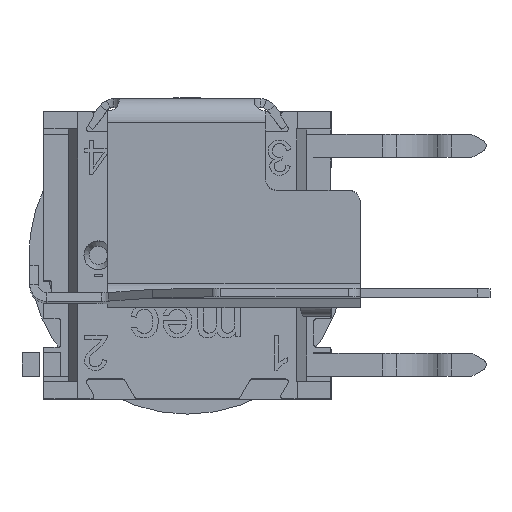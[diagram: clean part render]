
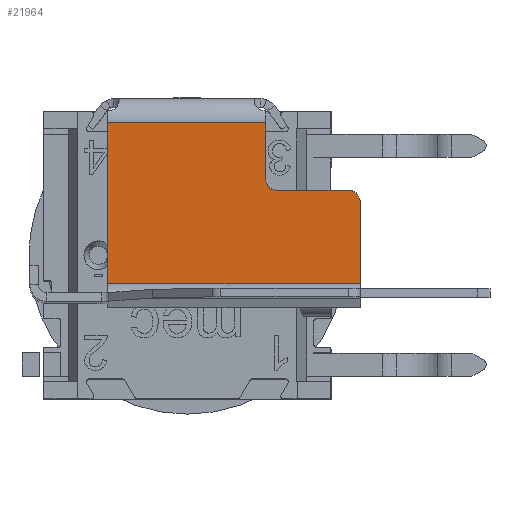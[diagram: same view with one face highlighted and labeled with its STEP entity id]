
A CAD part, top view. The second image highlights one B-rep face of the part: STEP entity #21964.
In plain terms, the highlighted planar face has unit normal (0, -0.052, 0.999).
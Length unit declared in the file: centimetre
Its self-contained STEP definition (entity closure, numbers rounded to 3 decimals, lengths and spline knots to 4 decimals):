
#1302=CIRCLE($,#23297,0.0425);
#1303=CIRCLE($,#23298,0.0375);
#1992=FACE_OUTER_BOUND($,#3148,.T.);
#3148=EDGE_LOOP($,(#14910,#14911,#14912,#14913,#14914,#14915,#14916,#14917));
#4431=LINE($,#35125,#6449);
#4434=LINE($,#35133,#6452);
#4443=LINE($,#35155,#6461);
#4445=LINE($,#35159,#6463);
#4446=LINE($,#35164,#6464);
#4447=LINE($,#35167,#6465);
#6449=VECTOR($,#25842,0.55);
#6452=VECTOR($,#25849,0.5611);
#6461=VECTOR($,#25876,0.88);
#6463=VECTOR($,#25880,0.2829);
#6464=VECTOR($,#25885,0.25);
#6465=VECTOR($,#25888,0.1982);
#8645=VERTEX_POINT($,#34920);
#8649=VERTEX_POINT($,#35120);
#8652=VERTEX_POINT($,#35131);
#8655=VERTEX_POINT($,#35146);
#8657=VERTEX_POINT($,#35157);
#8658=VERTEX_POINT($,#35161);
#8659=VERTEX_POINT($,#35163);
#8660=VERTEX_POINT($,#35165);
#11006=EDGE_CURVE($,#8649,#8645,#4431,.T.);
#11009=EDGE_CURVE($,#8652,#8645,#4434,.T.);
#11023=EDGE_CURVE($,#8652,#8655,#4443,.T.);
#11025=EDGE_CURVE($,#8657,#8655,#4445,.T.);
#11026=EDGE_CURVE($,#8658,#8657,#1302,.T.);
#11027=EDGE_CURVE($,#8659,#8658,#4446,.T.);
#11028=EDGE_CURVE($,#8660,#8659,#1303,.T.);
#11029=EDGE_CURVE($,#8649,#8660,#4447,.T.);
#14910=ORIENTED_EDGE($,*,*,#11006,.T.);
#14911=ORIENTED_EDGE($,*,*,#11009,.F.);
#14912=ORIENTED_EDGE($,*,*,#11023,.T.);
#14913=ORIENTED_EDGE($,*,*,#11025,.F.);
#14914=ORIENTED_EDGE($,*,*,#11026,.F.);
#14915=ORIENTED_EDGE($,*,*,#11027,.F.);
#14916=ORIENTED_EDGE($,*,*,#11028,.F.);
#14917=ORIENTED_EDGE($,*,*,#11029,.F.);
#19940=PLANE($,#23296);
#21964=ADVANCED_FACE($,(#1992),#19940,.T.);
#23296=AXIS2_PLACEMENT_3D($,#35160,#25881,#25882);
#23297=AXIS2_PLACEMENT_3D($,#35162,#25883,#25884);
#23298=AXIS2_PLACEMENT_3D($,#35166,#25886,#25887);
#25842=DIRECTION($,(-1.,0.,0.));
#25849=DIRECTION($,(0.,0.999,0.052));
#25876=DIRECTION($,(1.,0.,0.));
#25880=DIRECTION($,(0.,-0.999,-0.052));
#25881=DIRECTION('center_axis',(0.,-0.052,
0.999));
#25882=DIRECTION('ref_axis',(0.,0.999,0.052));
#25883=DIRECTION('center_axis',(0.,0.052,
-0.999));
#25884=DIRECTION('ref_axis',(-1.,0.,0.));
#25885=DIRECTION($,(1.,0.,0.));
#25886=DIRECTION('center_axis',(0.,-0.052,
0.999));
#25887=DIRECTION('ref_axis',(-1.,0.,0.));
#25888=DIRECTION($,(0.,-0.999,-0.052));
#34920=CARTESIAN_POINT('',(-0.2775,0.4608,0.4234));
#35120=CARTESIAN_POINT('',(0.2725,0.4608,0.4234));
#35125=CARTESIAN_POINT($,(0.5432,0.4608,0.4234));
#35131=CARTESIAN_POINT('',(-0.2775,-0.0995,0.3941));
#35133=CARTESIAN_POINT($,(-0.2775,-0.3663,0.3801));
#35146=CARTESIAN_POINT('',(0.6025,-0.0995,0.3941));
#35155=CARTESIAN_POINT($,(0.7082,-0.0995,0.3941));
#35157=CARTESIAN_POINT('',(0.6025,0.183,0.4089));
#35159=CARTESIAN_POINT($,(0.6025,0.183,0.4089));
#35160=CARTESIAN_POINT('Origin',(0.8139,-0.7557,0.3597));
#35161=CARTESIAN_POINT('',(0.56,0.2254,0.4111));
#35162=CARTESIAN_POINT('Origin',(0.56,0.183,0.4089));
#35163=CARTESIAN_POINT('',(0.31,0.2254,0.4111));
#35164=CARTESIAN_POINT($,(0.31,0.2254,0.4111));
#35165=CARTESIAN_POINT('',(0.2725,0.2629,0.4131));
#35166=CARTESIAN_POINT('Origin',(0.31,0.2629,0.4131));
#35167=CARTESIAN_POINT($,(0.2725,0.4951,0.4252));
